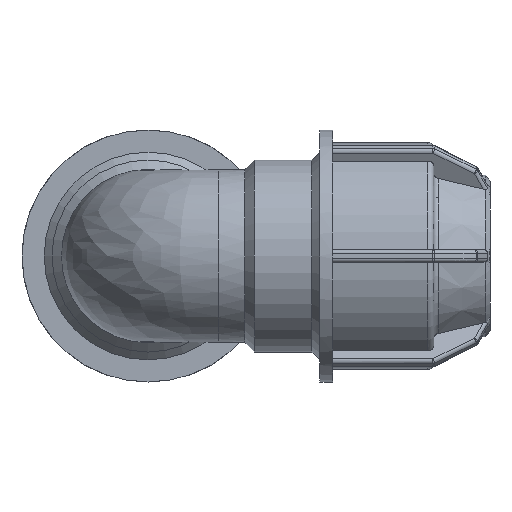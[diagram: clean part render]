
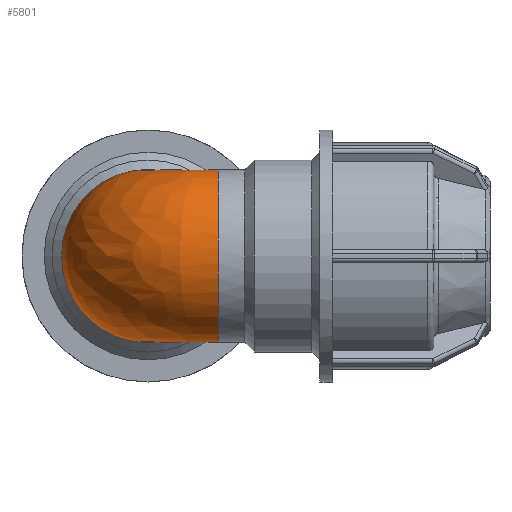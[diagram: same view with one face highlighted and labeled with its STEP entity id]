
A CAD part, front view. The second image highlights one B-rep face of the part: STEP entity #5801.
In plain terms, the highlighted free-form (B-spline) face has degree [2, 2] with [9, 3] control points.
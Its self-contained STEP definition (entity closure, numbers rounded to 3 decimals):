
#1374=FACE_OUTER_BOUND('',#1778,.T.);
#1778=EDGE_LOOP('',(#3990,#3991));
#2213=CIRCLE('',#6207,14.4);
#2214=CIRCLE('',#6208,14.4);
#2553=VERTEX_POINT('',#8829);
#2554=VERTEX_POINT('',#8830);
#3085=EDGE_CURVE('',#2553,#2554,#2213,.T.);
#3086=EDGE_CURVE('',#2554,#2553,#2214,.T.);
#3990=ORIENTED_EDGE('',*,*,#3085,.F.);
#3991=ORIENTED_EDGE('',*,*,#3086,.F.);
#5800=(
BOUNDED_SURFACE()
B_SPLINE_SURFACE(2,2,((#8802,#8803,#8804),(#8805,#8806,#8807),(#8808,#8809,
#8810),(#8811,#8812,#8813),(#8814,#8815,#8816),(#8817,#8818,#8819),(#8820,
#8821,#8822),(#8823,#8824,#8825),(#8826,#8827,#8828)),.UNSPECIFIED.,.F.,
 .F.,.F.)
B_SPLINE_SURFACE_WITH_KNOTS((3,2,2,2,3),(3,3),(-2.522,-1.261,
0.,1.261,2.522),(-3.142,-1.571),
 .UNSPECIFIED.)
GEOMETRIC_REPRESENTATION_ITEM()
RATIONAL_B_SPLINE_SURFACE(((1.,0.707,1.),(0.808,
0.571,0.808),(1.,0.707,1.),(0.808,
0.571,0.808),(1.,0.707,1.),(0.808,
0.571,0.808),(1.,0.707,1.),(0.808,
0.571,0.808),(1.,0.707,1.)))
REPRESENTATION_ITEM('')
SURFACE()
);
#5801=ADVANCED_FACE('',(#1374),#5800,.F.);
#6207=AXIS2_PLACEMENT_3D('',#8831,#6953,#6954);
#6208=AXIS2_PLACEMENT_3D('',#8832,#6955,#6956);
#6953=DIRECTION('center_axis',(1.,0.,0.));
#6954=DIRECTION('ref_axis',(0.,0.,-1.));
#6955=DIRECTION('center_axis',(0.,1.,0.));
#6956=DIRECTION('ref_axis',(0.,0.,-1.));
#8802=CARTESIAN_POINT('Ctrl Pts',(11.72,11.72,-8.367));
#8803=CARTESIAN_POINT('Ctrl Pts',(11.72,11.72,-8.367));
#8804=CARTESIAN_POINT('Ctrl Pts',(11.72,11.72,-8.367));
#8805=CARTESIAN_POINT('Ctrl Pts',(5.615,11.72,-16.919));
#8806=CARTESIAN_POINT('Ctrl Pts',(5.615,5.615,-16.919));
#8807=CARTESIAN_POINT('Ctrl Pts',(11.72,5.615,-16.919));
#8808=CARTESIAN_POINT('Ctrl Pts',(-4.393,11.72,-13.714));
#8809=CARTESIAN_POINT('Ctrl Pts',(-4.393,-4.393,-13.714));
#8810=CARTESIAN_POINT('Ctrl Pts',(11.72,-4.393,-13.714));
#8811=CARTESIAN_POINT('Ctrl Pts',(-14.4,11.72,-10.508));
#8812=CARTESIAN_POINT('Ctrl Pts',(-14.4,-14.4,-10.508));
#8813=CARTESIAN_POINT('Ctrl Pts',(11.72,-14.4,-10.508));
#8814=CARTESIAN_POINT('Ctrl Pts',(-14.4,11.72,0.));
#8815=CARTESIAN_POINT('Ctrl Pts',(-14.4,-14.4,0.));
#8816=CARTESIAN_POINT('Ctrl Pts',(11.72,-14.4,0.));
#8817=CARTESIAN_POINT('Ctrl Pts',(-14.4,11.72,10.508));
#8818=CARTESIAN_POINT('Ctrl Pts',(-14.4,-14.4,10.508));
#8819=CARTESIAN_POINT('Ctrl Pts',(11.72,-14.4,10.508));
#8820=CARTESIAN_POINT('Ctrl Pts',(-4.393,11.72,13.714));
#8821=CARTESIAN_POINT('Ctrl Pts',(-4.393,-4.393,13.714));
#8822=CARTESIAN_POINT('Ctrl Pts',(11.72,-4.393,13.714));
#8823=CARTESIAN_POINT('Ctrl Pts',(5.615,11.72,16.919));
#8824=CARTESIAN_POINT('Ctrl Pts',(5.615,5.615,16.919));
#8825=CARTESIAN_POINT('Ctrl Pts',(11.72,5.615,16.919));
#8826=CARTESIAN_POINT('Ctrl Pts',(11.72,11.72,8.367));
#8827=CARTESIAN_POINT('Ctrl Pts',(11.72,11.72,8.367));
#8828=CARTESIAN_POINT('Ctrl Pts',(11.72,11.72,8.367));
#8829=CARTESIAN_POINT('',(11.72,11.72,8.367));
#8830=CARTESIAN_POINT('',(11.72,11.72,-8.367));
#8831=CARTESIAN_POINT('Origin',(11.72,0.,0.));
#8832=CARTESIAN_POINT('Origin',(0.,11.72,0.));
